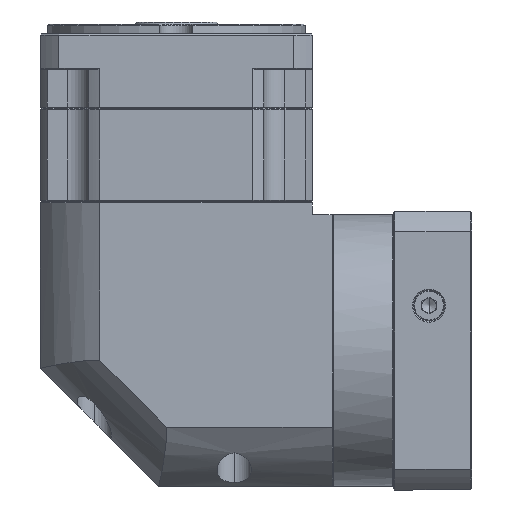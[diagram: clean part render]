
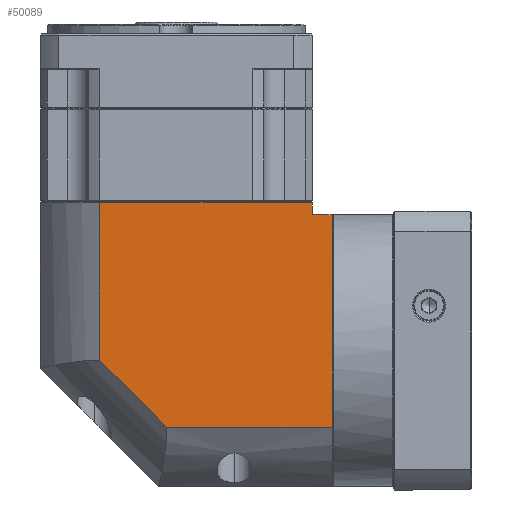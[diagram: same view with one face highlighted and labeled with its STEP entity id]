
A CAD part, left-side view. The second image highlights one B-rep face of the part: STEP entity #50089.
In plain terms, the highlighted planar face has unit normal (-1, 0, 0).
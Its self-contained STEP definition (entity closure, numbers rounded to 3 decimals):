
#1842 = EDGE_CURVE ( 'NONE', #149306, #100043, #24952, .T. ) ;
#6639 = FACE_OUTER_BOUND ( 'NONE', #156665, .T. ) ;
#7782 = VERTEX_POINT ( 'NONE', #133933 ) ;
#8381 = DIRECTION ( 'NONE',  ( 0., 0., 1. ) ) ;
#12724 = VECTOR ( 'NONE', #135964, 1000. ) ;
#13253 = EDGE_CURVE ( 'NONE', #90612, #149306, #145313, .T. ) ;
#24952 = LINE ( 'NONE', #46674, #124660 ) ;
#26109 = CARTESIAN_POINT ( 'NONE',  ( -253.559, 12.277, 45.173 ) ) ;
#27493 = CARTESIAN_POINT ( 'NONE',  ( -253.559, -77.622, 45.173 ) ) ;
#34296 = CARTESIAN_POINT ( 'NONE',  ( -253.559, -77.622, 40.173 ) ) ;
#38799 = LINE ( 'NONE', #106837, #69326 ) ;
#41152 = VERTEX_POINT ( 'NONE', #26109 ) ;
#46313 = DIRECTION ( 'NONE',  ( 0., 0., -1. ) ) ;
#46674 = CARTESIAN_POINT ( 'NONE',  ( -253.559, 37.378, -49.727 ) ) ;
#48247 = ORIENTED_EDGE ( 'NONE', *, *, #50160, .F. ) ;
#49815 = ORIENTED_EDGE ( 'NONE', *, *, #77294, .T. ) ;
#50089 = ADVANCED_FACE ( 'NONE', ( #6639 ), #119113, .F. ) ;
#50160 = EDGE_CURVE ( 'NONE', #100043, #7782, #150870, .T. ) ;
#61830 = VECTOR ( 'NONE', #76814, 1000. ) ;
#63717 = CARTESIAN_POINT ( 'NONE',  ( -253.559, 12.277, 51.673 ) ) ;
#64204 = ORIENTED_EDGE ( 'NONE', *, *, #152066, .F. ) ;
#69326 = VECTOR ( 'NONE', #158856, 1000. ) ;
#69578 = CARTESIAN_POINT ( 'NONE',  ( -253.559, 37.378, 51.673 ) ) ;
#72196 = VECTOR ( 'NONE', #46313, 1000. ) ;
#72816 = DIRECTION ( 'NONE',  ( 0., 1., 0. ) ) ;
#76308 = VECTOR ( 'NONE', #103959, 1000. ) ;
#76814 = DIRECTION ( 'NONE',  ( 0., 0., 1. ) ) ;
#77294 = EDGE_CURVE ( 'NONE', #90612, #98047, #110979, .T. ) ;
#78909 = ORIENTED_EDGE ( 'NONE', *, *, #13253, .F. ) ;
#82617 = DIRECTION ( 'NONE',  ( 0., 1., 0. ) ) ;
#90612 = VERTEX_POINT ( 'NONE', #121333 ) ;
#94823 = LINE ( 'NONE', #163926, #159741 ) ;
#98047 = VERTEX_POINT ( 'NONE', #34296 ) ;
#98097 = CARTESIAN_POINT ( 'NONE',  ( -253.559, -86.022, 51.673 ) ) ;
#100043 = VERTEX_POINT ( 'NONE', #129545 ) ;
#103959 = DIRECTION ( 'NONE',  ( 0., 1., 0. ) ) ;
#106837 = CARTESIAN_POINT ( 'NONE',  ( -253.559, 37.378, 45.173 ) ) ;
#106888 = ORIENTED_EDGE ( 'NONE', *, *, #160520, .T. ) ;
#108937 = VERTEX_POINT ( 'NONE', #27493 ) ;
#110979 = LINE ( 'NONE', #155444, #76308 ) ;
#119113 = PLANE ( 'NONE',  #164516 ) ;
#119635 = EDGE_CURVE ( 'NONE', #41152, #108937, #38799, .T. ) ;
#121333 = CARTESIAN_POINT ( 'NONE',  ( -253.559, -86.022, 40.173 ) ) ;
#123004 = CARTESIAN_POINT ( 'NONE',  ( -253.559, -16.061, -49.727 ) ) ;
#124660 = VECTOR ( 'NONE', #72816, 1000. ) ;
#129545 = CARTESIAN_POINT ( 'NONE',  ( -253.559, -16.061, -49.727 ) ) ;
#131022 = LINE ( 'NONE', #63717, #61830 ) ;
#133933 = CARTESIAN_POINT ( 'NONE',  ( -253.559, 12.277, -21.389 ) ) ;
#135964 = DIRECTION ( 'NONE',  ( 0., 0.707, 0.707 ) ) ;
#145313 = LINE ( 'NONE', #98097, #72196 ) ;
#149306 = VERTEX_POINT ( 'NONE', #156937 ) ;
#150870 = LINE ( 'NONE', #123004, #12724 ) ;
#152066 = EDGE_CURVE ( 'NONE', #7782, #41152, #131022, .T. ) ;
#155444 = CARTESIAN_POINT ( 'NONE',  ( -253.559, -77.622, 40.173 ) ) ;
#156665 = EDGE_LOOP ( 'NONE', ( #64204, #48247, #157704, #78909, #49815, #106888, #163970 ) ) ;
#156937 = CARTESIAN_POINT ( 'NONE',  ( -253.559, -86.022, -49.727 ) ) ;
#157704 = ORIENTED_EDGE ( 'NONE', *, *, #1842, .F. ) ;
#158856 = DIRECTION ( 'NONE',  ( 0., -1., 0. ) ) ;
#159741 = VECTOR ( 'NONE', #8381, 1000. ) ;
#160346 = DIRECTION ( 'NONE',  ( 1., 0., 0. ) ) ;
#160520 = EDGE_CURVE ( 'NONE', #98047, #108937, #94823, .T. ) ;
#163926 = CARTESIAN_POINT ( 'NONE',  ( -253.559, -77.622, -74.827 ) ) ;
#163970 = ORIENTED_EDGE ( 'NONE', *, *, #119635, .F. ) ;
#164516 = AXIS2_PLACEMENT_3D ( 'NONE', #69578, #160346, #82617 ) ;
